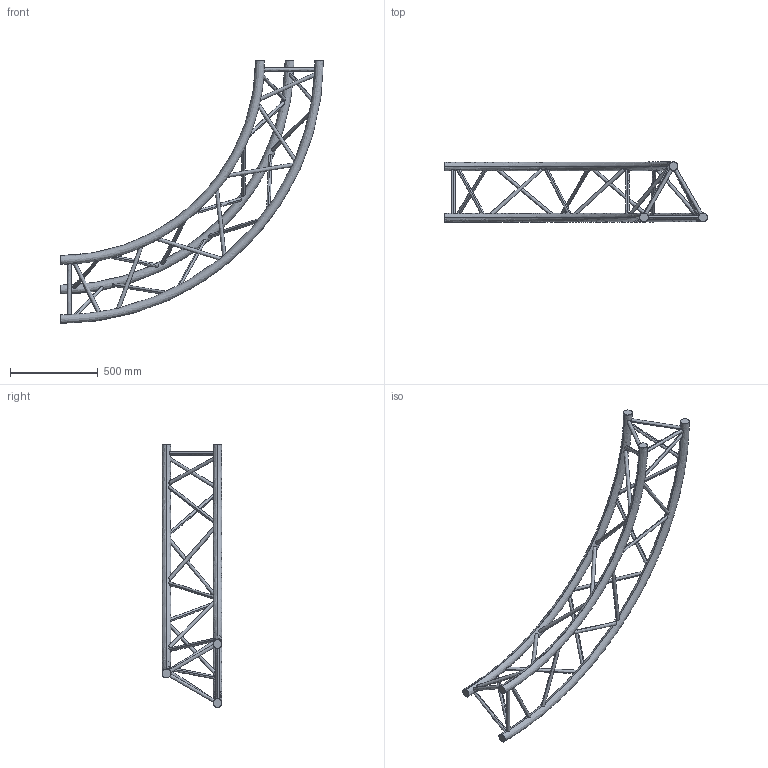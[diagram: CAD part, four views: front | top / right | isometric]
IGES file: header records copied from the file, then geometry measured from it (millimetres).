
Start section: SolidWorks IGES file using analytic representation for surfaces
Global section: file name: K:\BIBLIO\asd_biblio\SX390\Cercles\SXC39PH\SXC39300PH\SXC39300PH.IGS; native system: SolidWorks 2009; preprocessor: SolidWorks 2009; author: des3; date: 091021.132439; units: millimetre
Bounding box: 1500 x 341.85 x 1500 mm (x, y, z)
Surface area: 1548777.5 mm2 (no closed solid volume)
Topology: 0 solids, 0 shells, 66 faces, 4714 edges, 4714 vertices
Faces by surface type: revolution 54, bspline 12
